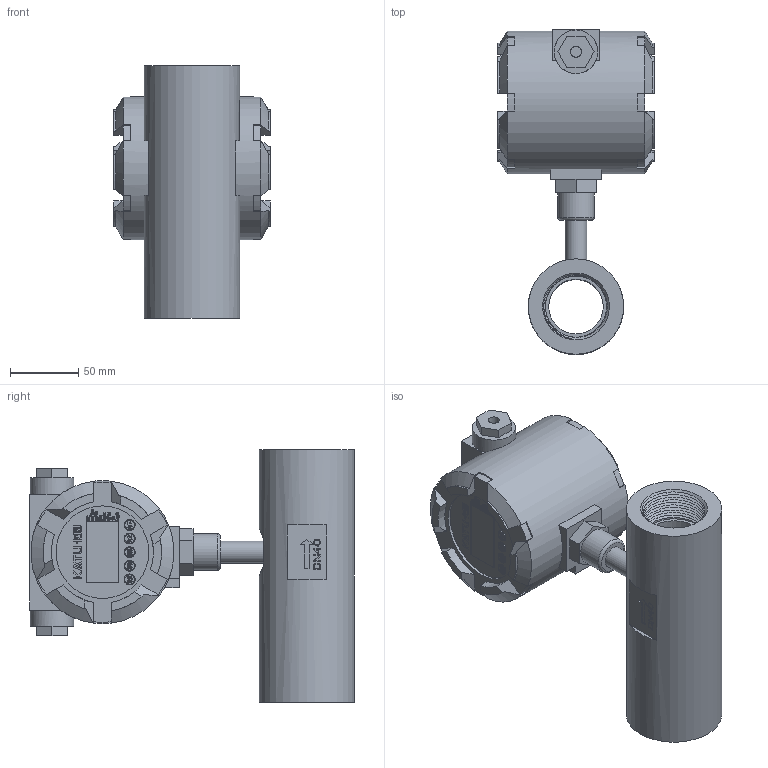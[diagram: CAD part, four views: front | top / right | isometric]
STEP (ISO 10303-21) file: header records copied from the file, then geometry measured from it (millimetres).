
FILE_DESCRIPTION( (''), '2;1');
FILE_NAME( 'QTKC_DN40_female-thread_Ex.step', '2024-10-14T14:42:29+08:00', (''), (''), '', '', '');
FILE_SCHEMA (('AUTOMOTIVE_DESIGN { 1 0 10303 214 3 1 1 1 }'));
Length unit declared in the file: millimetre
Products named in the file (1): QTKC DN40_female-thread_Ex
Bounding box: 115 x 238.5 x 185 mm (x, y, z)
Volume: 1394419 mm3; surface area: 156810.9 mm2
Topology: 4 solids, 4 shells, 1453 faces, 3981 edges, 2646 vertices
Faces by surface type: plane 837, extrusion 504, cylinder 71, bspline 20, cone 15, torus 6
Full cylindrical faces by diameter (mm): 3.3 x1, 8 x2, 15 x1, 16 x1, 18.5 x1, 20 x2, 27 x1, 32 x2, 40 x1, 45 x1, 68 x1, 70 x1, 105 x1
Entity records: 50821 total; most frequent: CARTESIAN_POINT 16279, ORIENTED_EDGE 7860, DIRECTION 5324, EDGE_CURVE 3930, VECTOR 3096, VERTEX_POINT 2624, LINE 2592, B_SPLINE_CURVE_WITH_KNOTS 1657
